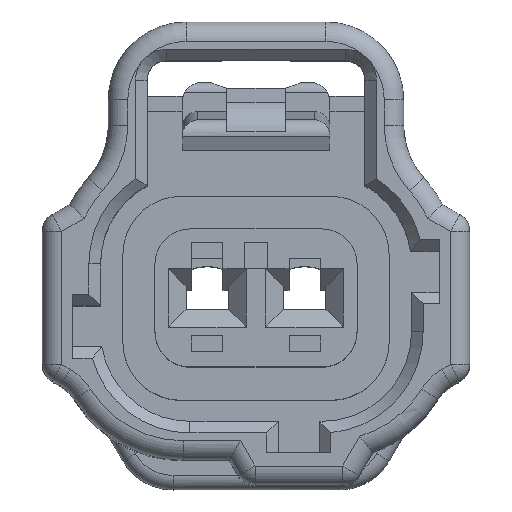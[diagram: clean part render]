
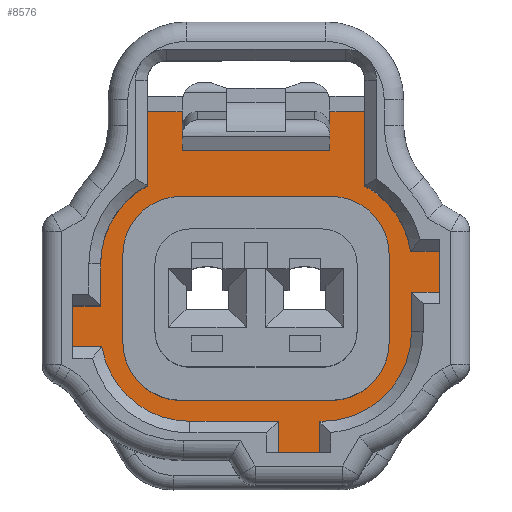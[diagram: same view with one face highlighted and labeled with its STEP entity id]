
A CAD part, top view. The second image highlights one B-rep face of the part: STEP entity #8576.
In plain terms, the highlighted planar face has unit normal (0, 0, 1).
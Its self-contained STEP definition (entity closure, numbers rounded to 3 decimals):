
#2609=DIRECTION('',(0.,-1.,0.));
#2610=VECTOR('',#2609,4.5);
#2611=CARTESIAN_POINT('',(-6.85,2.25,-18.5));
#2612=LINE('',#2611,#2610);
#2613=CARTESIAN_POINT('',(-3.85,-2.25,-18.5));
#2614=DIRECTION('',(0.,0.,1.));
#2615=DIRECTION('',(-1.,0.,0.));
#2616=AXIS2_PLACEMENT_3D('',#2613,#2614,#2615);
#2618=DIRECTION('',(1.,0.,0.));
#2619=VECTOR('',#2618,7.7);
#2620=CARTESIAN_POINT('',(-3.85,-5.25,-18.5));
#2621=LINE('',#2620,#2619);
#2622=CARTESIAN_POINT('',(3.85,-2.25,-18.5));
#2623=DIRECTION('',(0.,0.,1.));
#2624=DIRECTION('',(0.,-1.,0.));
#2625=AXIS2_PLACEMENT_3D('',#2622,#2623,#2624);
#2627=DIRECTION('',(0.,1.,0.));
#2628=VECTOR('',#2627,4.5);
#2629=CARTESIAN_POINT('',(6.85,-2.25,-18.5));
#2630=LINE('',#2629,#2628);
#2631=CARTESIAN_POINT('',(3.85,2.25,-18.5));
#2632=DIRECTION('',(0.,0.,1.));
#2633=DIRECTION('',(1.,0.,0.));
#2634=AXIS2_PLACEMENT_3D('',#2631,#2632,#2633);
#2636=DIRECTION('',(-1.,0.,0.));
#2637=VECTOR('',#2636,7.7);
#2638=CARTESIAN_POINT('',(3.85,5.25,-18.5));
#2639=LINE('',#2638,#2637);
#2640=CARTESIAN_POINT('',(-3.85,2.25,-18.5));
#2641=DIRECTION('',(0.,0.,1.));
#2642=DIRECTION('',(0.,1.,0.));
#2643=AXIS2_PLACEMENT_3D('',#2640,#2641,#2642);
#2645=DIRECTION('',(0.,-1.,0.));
#2646=VECTOR('',#2645,2.);
#2647=CARTESIAN_POINT('',(3.8,9.6,-18.5));
#2648=LINE('',#2647,#2646);
#2649=DIRECTION('',(-1.,0.,0.));
#2650=VECTOR('',#2649,1.8);
#2651=CARTESIAN_POINT('',(5.6,9.6,-18.5));
#2652=LINE('',#2651,#2650);
#2653=DIRECTION('',(0.,1.,0.));
#2654=VECTOR('',#2653,3.81);
#2655=CARTESIAN_POINT('',(5.6,5.79,-18.5));
#2656=LINE('',#2655,#2654);
#2657=CARTESIAN_POINT('',(3.4,1.75,-18.5));
#2658=DIRECTION('',(0.,0.,1.));
#2659=DIRECTION('',(0.99,0.141,0.));
#2660=AXIS2_PLACEMENT_3D('',#2657,#2658,#2659);
#2662=DIRECTION('',(-1.,0.,0.));
#2663=VECTOR('',#2662,1.485);
#2664=CARTESIAN_POINT('',(9.438,2.4,-18.5));
#2665=LINE('',#2664,#2663);
#2666=DIRECTION('',(0.,1.,0.));
#2667=VECTOR('',#2666,2.1);
#2668=CARTESIAN_POINT('',(9.438,0.3,-18.5));
#2669=LINE('',#2668,#2667);
#2670=DIRECTION('',(1.,0.,0.));
#2671=VECTOR('',#2670,1.438);
#2672=CARTESIAN_POINT('',(8.,0.3,-18.5));
#2673=LINE('',#2672,#2671);
#2674=DIRECTION('',(0.,1.,0.));
#2675=VECTOR('',#2674,2.05);
#2676=CARTESIAN_POINT('',(8.,-1.75,-18.5));
#2677=LINE('',#2676,#2675);
#2678=CARTESIAN_POINT('',(3.4,-1.75,-18.5));
#2679=DIRECTION('',(0.,0.,1.));
#2680=DIRECTION('',(0.,-1.,0.));
#2681=AXIS2_PLACEMENT_3D('',#2678,#2679,#2680);
#2683=DIRECTION('',(1.,0.,0.));
#2684=VECTOR('',#2683,0.15);
#2685=CARTESIAN_POINT('',(3.25,-6.35,-18.5));
#2686=LINE('',#2685,#2684);
#2687=DIRECTION('',(0.,1.,0.));
#2688=VECTOR('',#2687,1.6);
#2689=CARTESIAN_POINT('',(3.25,-7.95,-18.5));
#2690=LINE('',#2689,#2688);
#2691=DIRECTION('',(1.,0.,0.));
#2692=VECTOR('',#2691,2.1);
#2693=CARTESIAN_POINT('',(1.15,-7.95,-18.5));
#2694=LINE('',#2693,#2692);
#2695=DIRECTION('',(0.,-1.,0.));
#2696=VECTOR('',#2695,1.6);
#2697=CARTESIAN_POINT('',(1.15,-6.35,-18.5));
#2698=LINE('',#2697,#2696);
#2699=DIRECTION('',(1.,0.,0.));
#2700=VECTOR('',#2699,4.55);
#2701=CARTESIAN_POINT('',(-3.4,-6.35,-18.5));
#2702=LINE('',#2701,#2700);
#2703=CARTESIAN_POINT('',(-3.4,-1.75,-18.5));
#2704=DIRECTION('',(0.,0.,1.));
#2705=DIRECTION('',(-0.987,-0.163,0.));
#2706=AXIS2_PLACEMENT_3D('',#2703,#2704,#2705);
#2708=DIRECTION('',(1.,0.,0.));
#2709=VECTOR('',#2708,1.5);
#2710=CARTESIAN_POINT('',(-9.438,-2.5,-18.5));
#2711=LINE('',#2710,#2709);
#2712=DIRECTION('',(0.,-1.,0.));
#2713=VECTOR('',#2712,2.1);
#2714=CARTESIAN_POINT('',(-9.438,-0.4,-18.5));
#2715=LINE('',#2714,#2713);
#2716=DIRECTION('',(-1.,0.,0.));
#2717=VECTOR('',#2716,1.438);
#2718=CARTESIAN_POINT('',(-8.,-0.4,-18.5));
#2719=LINE('',#2718,#2717);
#2720=DIRECTION('',(0.,-1.,0.));
#2721=VECTOR('',#2720,2.15);
#2722=CARTESIAN_POINT('',(-8.,1.75,-18.5));
#2723=LINE('',#2722,#2721);
#2724=CARTESIAN_POINT('',(-3.4,1.75,-18.5));
#2725=DIRECTION('',(0.,0.,1.));
#2726=DIRECTION('',(-0.478,0.878,0.));
#2727=AXIS2_PLACEMENT_3D('',#2724,#2725,#2726);
#2729=DIRECTION('',(0.,-1.,0.));
#2730=VECTOR('',#2729,3.81);
#2731=CARTESIAN_POINT('',(-5.6,9.6,-18.5));
#2732=LINE('',#2731,#2730);
#2733=DIRECTION('',(-1.,0.,0.));
#2734=VECTOR('',#2733,1.8);
#2735=CARTESIAN_POINT('',(-3.8,9.6,-18.5));
#2736=LINE('',#2735,#2734);
#2737=DIRECTION('',(0.,-1.,0.));
#2738=VECTOR('',#2737,2.);
#2739=CARTESIAN_POINT('',(-3.8,9.6,-18.5));
#2740=LINE('',#2739,#2738);
#2741=DIRECTION('',(-1.,0.,0.));
#2742=VECTOR('',#2741,7.6);
#2743=CARTESIAN_POINT('',(3.8,7.6,-18.5));
#2744=LINE('',#2743,#2742);
#4253=CARTESIAN_POINT('',(8.,-1.75,-18.5));
#4254=CARTESIAN_POINT('',(8.,0.3,-18.5));
#4255=VERTEX_POINT('',#4253);
#4256=VERTEX_POINT('',#4254);
#4257=CARTESIAN_POINT('',(9.438,0.3,-18.5));
#4258=VERTEX_POINT('',#4257);
#4259=CARTESIAN_POINT('',(9.438,2.4,-18.5));
#4260=VERTEX_POINT('',#4259);
#4261=CARTESIAN_POINT('',(7.954,2.4,-18.5));
#4262=VERTEX_POINT('',#4261);
#4263=CARTESIAN_POINT('',(-8.,1.75,-18.5));
#4264=CARTESIAN_POINT('',(-8.,-0.4,-18.5));
#4265=VERTEX_POINT('',#4263);
#4266=VERTEX_POINT('',#4264);
#4267=CARTESIAN_POINT('',(-9.438,-0.4,-18.5));
#4268=VERTEX_POINT('',#4267);
#4269=CARTESIAN_POINT('',(-9.438,-2.5,-18.5));
#4270=VERTEX_POINT('',#4269);
#4271=CARTESIAN_POINT('',(-7.938,-2.5,-18.5));
#4272=VERTEX_POINT('',#4271);
#4273=CARTESIAN_POINT('',(-3.4,-6.35,-18.5));
#4274=VERTEX_POINT('',#4273);
#4275=CARTESIAN_POINT('',(1.15,-6.35,-18.5));
#4276=VERTEX_POINT('',#4275);
#4277=CARTESIAN_POINT('',(1.15,-7.95,-18.5));
#4278=VERTEX_POINT('',#4277);
#4279=CARTESIAN_POINT('',(3.25,-7.95,-18.5));
#4280=VERTEX_POINT('',#4279);
#4281=CARTESIAN_POINT('',(3.25,-6.35,-18.5));
#4282=VERTEX_POINT('',#4281);
#4283=CARTESIAN_POINT('',(3.4,-6.35,-18.5));
#4284=VERTEX_POINT('',#4283);
#4301=CARTESIAN_POINT('',(5.6,5.79,-18.5));
#4302=VERTEX_POINT('',#4301);
#4303=CARTESIAN_POINT('',(-5.6,5.79,-18.5));
#4304=VERTEX_POINT('',#4303);
#4305=CARTESIAN_POINT('',(-5.6,9.6,-18.5));
#4306=VERTEX_POINT('',#4305);
#4307=CARTESIAN_POINT('',(5.6,9.6,-18.5));
#4308=VERTEX_POINT('',#4307);
#4325=CARTESIAN_POINT('',(-6.85,2.25,-18.5));
#4326=CARTESIAN_POINT('',(-6.85,-2.25,-18.5));
#4327=VERTEX_POINT('',#4325);
#4328=VERTEX_POINT('',#4326);
#4329=CARTESIAN_POINT('',(-3.85,-5.25,-18.5));
#4330=VERTEX_POINT('',#4329);
#4331=CARTESIAN_POINT('',(3.85,-5.25,-18.5));
#4332=VERTEX_POINT('',#4331);
#4333=CARTESIAN_POINT('',(6.85,-2.25,-18.5));
#4334=VERTEX_POINT('',#4333);
#4335=CARTESIAN_POINT('',(6.85,2.25,-18.5));
#4336=VERTEX_POINT('',#4335);
#4337=CARTESIAN_POINT('',(3.85,5.25,-18.5));
#4338=VERTEX_POINT('',#4337);
#4339=CARTESIAN_POINT('',(-3.85,5.25,-18.5));
#4340=VERTEX_POINT('',#4339);
#4365=CARTESIAN_POINT('',(3.8,9.6,-18.5));
#4366=CARTESIAN_POINT('',(3.8,7.6,-18.5));
#4367=VERTEX_POINT('',#4365);
#4368=VERTEX_POINT('',#4366);
#4369=CARTESIAN_POINT('',(-3.8,9.6,-18.5));
#4370=CARTESIAN_POINT('',(-3.8,7.6,-18.5));
#4371=VERTEX_POINT('',#4369);
#4372=VERTEX_POINT('',#4370);
#8507=CARTESIAN_POINT('',(0.,0.,-18.5));
#8508=DIRECTION('',(0.,0.,1.));
#8509=DIRECTION('',(1.,0.,0.));
#8510=AXIS2_PLACEMENT_3D('',#8507,#8508,#8509);
#8511=PLANE('',#8510);
#8513=ORIENTED_EDGE('',*,*,#8512,.F.);
#8514=ORIENTED_EDGE('',*,*,#8339,.F.);
#8515=ORIENTED_EDGE('',*,*,#8443,.F.);
#8517=ORIENTED_EDGE('',*,*,#8516,.F.);
#8519=ORIENTED_EDGE('',*,*,#8518,.F.);
#8521=ORIENTED_EDGE('',*,*,#8520,.F.);
#8523=ORIENTED_EDGE('',*,*,#8522,.F.);
#8525=ORIENTED_EDGE('',*,*,#8524,.F.);
#8527=ORIENTED_EDGE('',*,*,#8526,.F.);
#8529=ORIENTED_EDGE('',*,*,#8528,.F.);
#8531=ORIENTED_EDGE('',*,*,#8530,.F.);
#8533=ORIENTED_EDGE('',*,*,#8532,.F.);
#8535=ORIENTED_EDGE('',*,*,#8534,.F.);
#8537=ORIENTED_EDGE('',*,*,#8536,.F.);
#8539=ORIENTED_EDGE('',*,*,#8538,.F.);
#8541=ORIENTED_EDGE('',*,*,#8540,.F.);
#8543=ORIENTED_EDGE('',*,*,#8542,.F.);
#8545=ORIENTED_EDGE('',*,*,#8544,.F.);
#8547=ORIENTED_EDGE('',*,*,#8546,.F.);
#8549=ORIENTED_EDGE('',*,*,#8548,.F.);
#8550=ORIENTED_EDGE('',*,*,#8496,.F.);
#8551=ORIENTED_EDGE('',*,*,#8359,.F.);
#8553=ORIENTED_EDGE('',*,*,#8552,.T.);
#8555=ORIENTED_EDGE('',*,*,#8554,.F.);
#8556=EDGE_LOOP('',(#8513,#8514,#8515,#8517,#8519,#8521,#8523,#8525,#8527,#8529,
#8531,#8533,#8535,#8537,#8539,#8541,#8543,#8545,#8547,#8549,#8550,#8551,#8553,
#8555));
#8557=FACE_OUTER_BOUND('',#8556,.F.);
#8559=ORIENTED_EDGE('',*,*,#8558,.T.);
#8561=ORIENTED_EDGE('',*,*,#8560,.T.);
#8563=ORIENTED_EDGE('',*,*,#8562,.T.);
#8565=ORIENTED_EDGE('',*,*,#8564,.T.);
#8567=ORIENTED_EDGE('',*,*,#8566,.T.);
#8569=ORIENTED_EDGE('',*,*,#8568,.T.);
#8571=ORIENTED_EDGE('',*,*,#8570,.T.);
#8573=ORIENTED_EDGE('',*,*,#8572,.T.);
#8574=EDGE_LOOP('',(#8559,#8561,#8563,#8565,#8567,#8569,#8571,#8573));
#8575=FACE_BOUND('',#8574,.F.);
#8576=ADVANCED_FACE('',(#8557,#8575),#8511,.T.);
#2617=CIRCLE('',#2616,3.);
#2626=CIRCLE('',#2625,3.);
#2635=CIRCLE('',#2634,3.);
#2644=CIRCLE('',#2643,3.);
#2661=CIRCLE('',#2660,4.6);
#2682=CIRCLE('',#2681,4.6);
#2707=CIRCLE('',#2706,4.6);
#2728=CIRCLE('',#2727,4.6);
#8339=EDGE_CURVE('',#4308,#4367,#2652,.T.);
#8359=EDGE_CURVE('',#4371,#4306,#2736,.T.);
#8443=EDGE_CURVE('',#4302,#4308,#2656,.T.);
#8496=EDGE_CURVE('',#4306,#4304,#2732,.T.);
#8512=EDGE_CURVE('',#4367,#4368,#2648,.T.);
#8516=EDGE_CURVE('',#4262,#4302,#2661,.T.);
#8518=EDGE_CURVE('',#4260,#4262,#2665,.T.);
#8520=EDGE_CURVE('',#4258,#4260,#2669,.T.);
#8522=EDGE_CURVE('',#4256,#4258,#2673,.T.);
#8524=EDGE_CURVE('',#4255,#4256,#2677,.T.);
#8526=EDGE_CURVE('',#4284,#4255,#2682,.T.);
#8528=EDGE_CURVE('',#4282,#4284,#2686,.T.);
#8530=EDGE_CURVE('',#4280,#4282,#2690,.T.);
#8532=EDGE_CURVE('',#4278,#4280,#2694,.T.);
#8534=EDGE_CURVE('',#4276,#4278,#2698,.T.);
#8536=EDGE_CURVE('',#4274,#4276,#2702,.T.);
#8538=EDGE_CURVE('',#4272,#4274,#2707,.T.);
#8540=EDGE_CURVE('',#4270,#4272,#2711,.T.);
#8542=EDGE_CURVE('',#4268,#4270,#2715,.T.);
#8544=EDGE_CURVE('',#4266,#4268,#2719,.T.);
#8546=EDGE_CURVE('',#4265,#4266,#2723,.T.);
#8548=EDGE_CURVE('',#4304,#4265,#2728,.T.);
#8552=EDGE_CURVE('',#4371,#4372,#2740,.T.);
#8554=EDGE_CURVE('',#4368,#4372,#2744,.T.);
#8558=EDGE_CURVE('',#4327,#4328,#2612,.T.);
#8560=EDGE_CURVE('',#4328,#4330,#2617,.T.);
#8562=EDGE_CURVE('',#4330,#4332,#2621,.T.);
#8564=EDGE_CURVE('',#4332,#4334,#2626,.T.);
#8566=EDGE_CURVE('',#4334,#4336,#2630,.T.);
#8568=EDGE_CURVE('',#4336,#4338,#2635,.T.);
#8570=EDGE_CURVE('',#4338,#4340,#2639,.T.);
#8572=EDGE_CURVE('',#4340,#4327,#2644,.T.);
